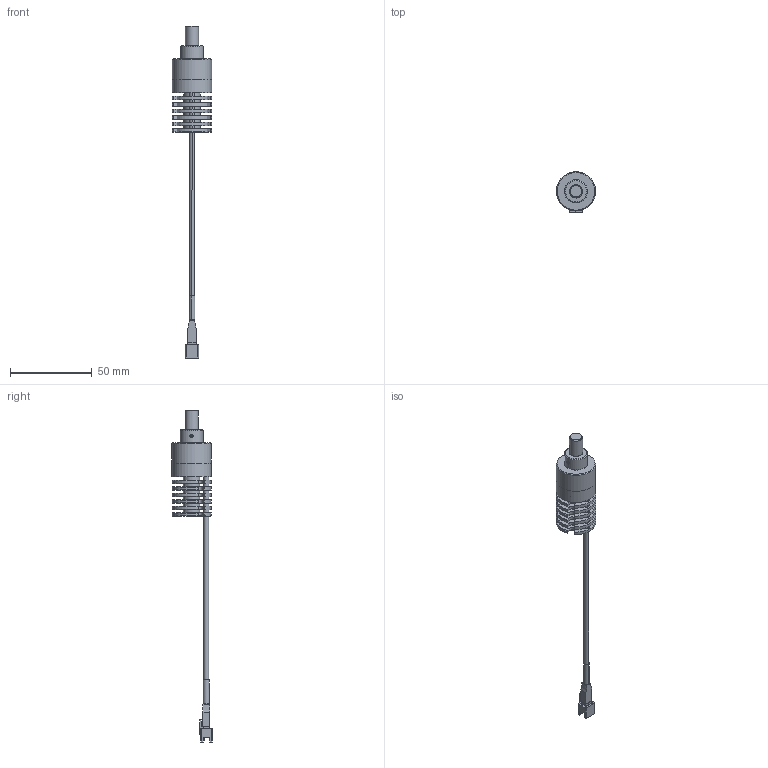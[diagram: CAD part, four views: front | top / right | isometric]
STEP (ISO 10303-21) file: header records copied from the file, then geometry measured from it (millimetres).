
FILE_DESCRIPTION (( 'STEP AP203' ), '1' );
FILE_NAME ('VSP-A1-2P_Drawing_L1240 - A00100.STEP', '2024-02-29T03:28:38', ( '' ), ( '' ), 'SwSTEP 2.0', 'SolidWorks 2020', '' );
FILE_SCHEMA (( 'CONFIG_CONTROL_DESIGN' ));
Length unit declared in the file: millimetre
Products named in the file (8): 黑碳鋼 內六角螺絲 M2 x L10mm; HEAT SINK; 止付螺絲 M2 x 3.5; HLR243DWH01A_3D_VL-CSH035.step; 2P.step; SM2.5 2P; VSP-A1-2P_Drawing_L1240 - A00100; BARREL
Assembly tree (9 placements, depth 4):
  VSP-A1-2P_Drawing_L1240 - A00100
    HEAT SINK
    BARREL
    黑碳鋼 內六角螺絲 M2 x L10mm  x3
    止付螺絲 M2 x 3.5
    SM2.5 2P
      HLR243DWH01A_3D_VL-CSH035.step
        2P.step
Bounding box: 24 x 24.5 x 203.18 mm (x, y, z)
Volume: 18354.5 mm3; surface area: 12533.3 mm2
Topology: 9 solids, 9 shells, 392 faces, 966 edges, 626 vertices
Faces by surface type: plane 256, cylinder 87, cone 34, torus 11, bspline 4
Full cylindrical faces by diameter (mm): 1.5 x4, 2 x4, 2.2 x3, 3 x1, 3.5 x6, 3.8 x3, 4 x3, 8 x1, 10 x6, 14 x1, 22.6 x1, 22.8 x1, 24 x2
Entity records: 11697 total; most frequent: CARTESIAN_POINT 2302, DIRECTION 1715, ORIENTED_EDGE 1714, EDGE_CURVE 857, AXIS2_PLACEMENT_3D 584, VERTEX_POINT 583, LINE 547, VECTOR 547
